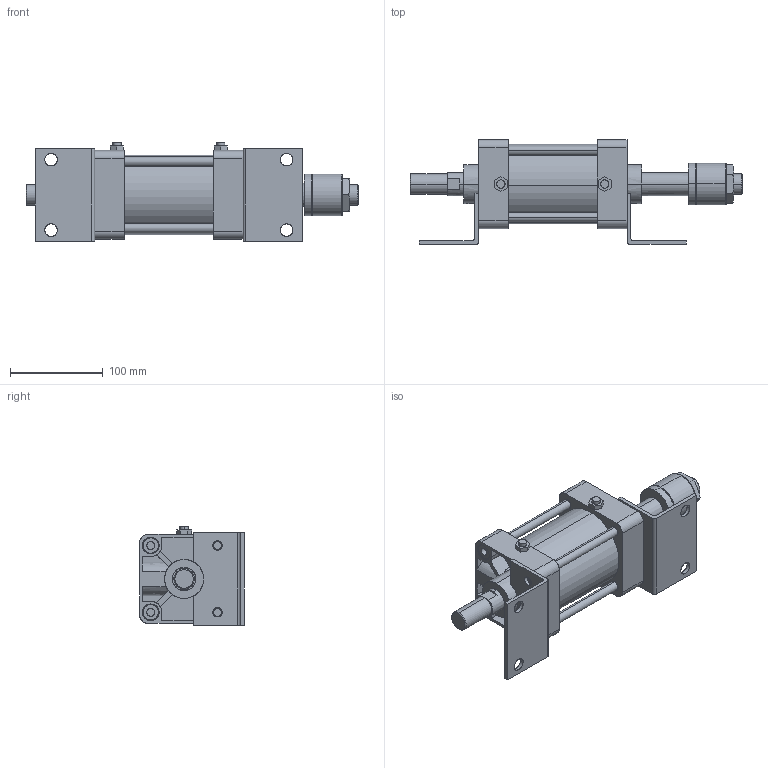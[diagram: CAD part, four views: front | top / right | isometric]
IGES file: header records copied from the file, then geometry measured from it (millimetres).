
Start section: SolidWorks IGES file using analytic representation for surfaces
Global section: file name: C:\Users\Toshiba\Desktop\KGA7-80#-50-L.IGS; native system: SolidWorks 2014; preprocessor: SolidWorks 2014; author: Toshiba; date: 160414.155328; units: millimetre
Bounding box: 358 x 113 x 106.3 mm (x, y, z)
Surface area: 242192.7 mm2 (no closed solid volume)
Topology: 0 solids, 0 shells, 401 faces, 6706 edges, 6702 vertices
Faces by surface type: bspline 217, revolution 184
